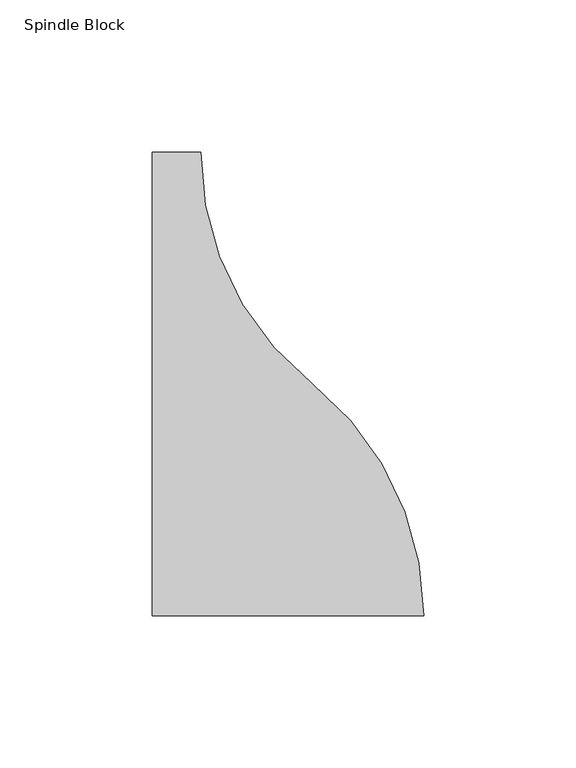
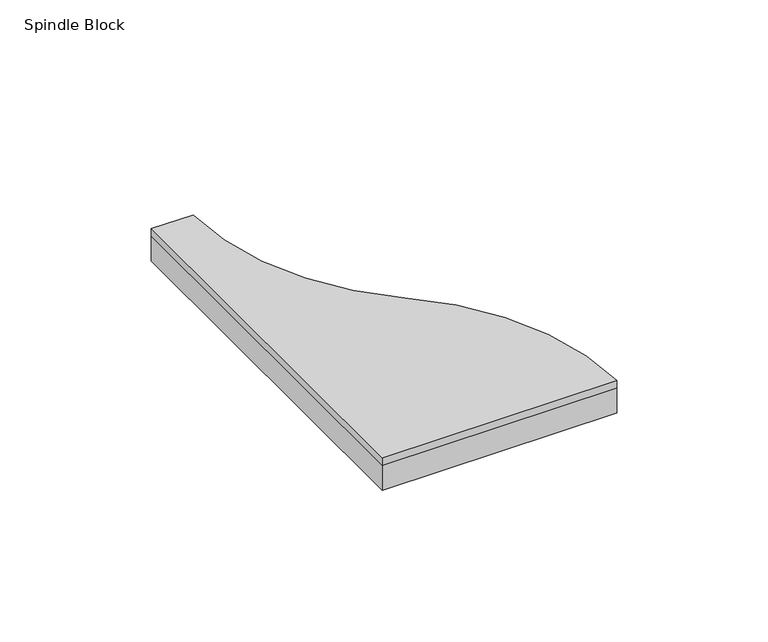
"""IFC4 building model written with IfcOpenShell, lengths in millimetres: proxy geometry, FilzFelt_Spindle_Block : Spindle Block."""

from ifc_helpers import new_model, si_unit, point, frame, frame_2d, origin, origin_with_axes, place, context, project, spatial, polyline, circle_curve, trimmed, segment, composite_curve, outline, extrude, source, transform, mapped, element, save


def spindle_block_542214b9(model_context):
    return source(origin(), model_context, "Body", "SweptSolid", [
        extrude(outline(composite_curve([segment(trimmed(circle_curve(frame_2d((113.4981354, 152.5)), 97.5776355), [point((15.9204999, 152.5))], [point((52.6102676, 76.25))], True, "CARTESIAN"), True, "CONTINUOUS"), segment(trimmed(circle_curve(frame_2d((-8.2776003, 0.0)), 97.5776355), [point((52.6102676, 76.25))], [point((89.3000352, 0.0))], False, "CARTESIAN"), True, "CONTINUOUS"), segment(polyline([(89.3000352, 0.0), (0.0, 0.0), (0.0, 152.5), (15.9204999, 152.5)]), True, "CONTINUOUS")], self_intersect=False)), frame((0.0, 0.0, 10.0210937), z_axis=(0.0, 0.0, 1.0), x_axis=(1.0, 0.0, 0.0)), (0.0, 0.0, 1.0), 2.9765625),
        extrude(outline(composite_curve([segment(trimmed(circle_curve(frame_2d((113.4981354, 152.5)), 97.5776355), [point((15.9204999, 152.5))], [point((52.6102676, 76.25))], True, "CARTESIAN"), True, "CONTINUOUS"), segment(trimmed(circle_curve(frame_2d((-8.2776003, 0.0)), 97.5776355), [point((52.6102676, 76.25))], [point((89.3000352, 0.0))], False, "CARTESIAN"), True, "CONTINUOUS"), segment(polyline([(89.3000352, 0.0), (0.0, 0.0), (0.0, 152.5), (15.9204999, 152.5)]), True, "CONTINUOUS")], self_intersect=False)), origin_with_axes(), (0.0, 0.0, 1.0), 10.0210938),
    ])


if __name__ == "__main__":
    model = new_model("IFC4")
    model_context = context("Model", 3, world=origin())
    ifc_project = project(units=[si_unit("LENGTHUNIT", "METRE", prefix="MILLI")], contexts=[model_context])
    site = spatial("IfcSite", under=ifc_project)
    building = spatial("IfcBuilding", under=site)
    placement = place(None, origin())
    spindle_block_shape = spindle_block_542214b9(model_context)
    element("IfcBuildingElementProxy", 1, Name="FilzFelt_Spindle_Block : Spindle Block", ObjectType="FilzFelt_Spindle_Block : Spindle Block", at=placement, inside=building, context=model_context, shape_type="MappedRepresentation", body=[
        mapped(spindle_block_shape, transform((0.0, 0.0, 0.0), x_axis=(1.0, 0.0, 0.0), y_axis=(0.0, 1.0, 0.0), z_axis=(0.0, 0.0, 1.0))),
    ])
    save(model, "model.ifc")
